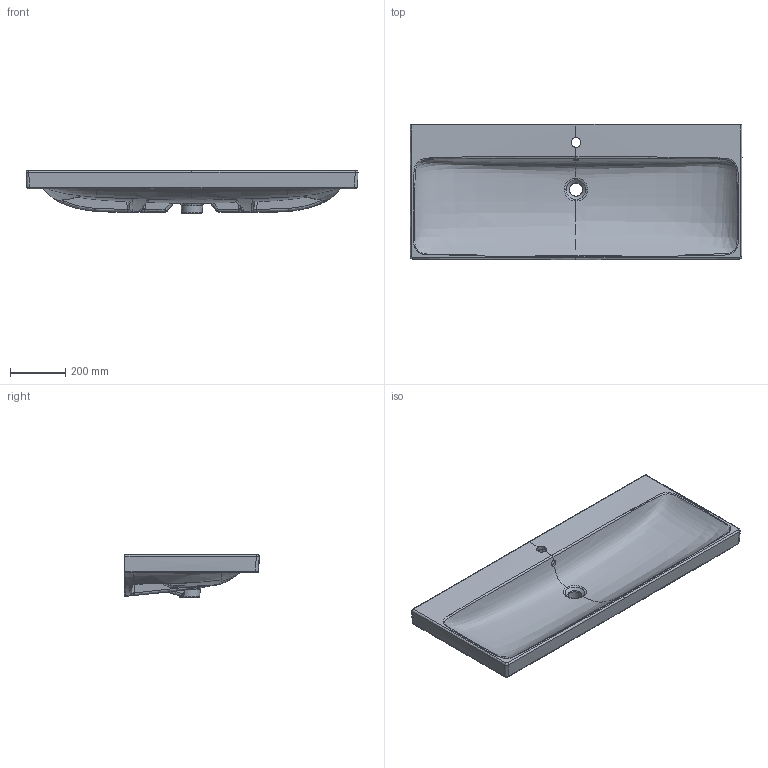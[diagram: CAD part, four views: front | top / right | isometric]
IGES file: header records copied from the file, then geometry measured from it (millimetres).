
Global section: file name: 510.011.00.2; native system: Autodesk Inventor 2023; preprocessor: unknown; author: JANAN; date: 20250107.144857; units: millimetre
Bounding box: 1198.17 x 487.7 x 155.99 mm (x, y, z)
Volume: 20012400.8 mm3; surface area: 1787642.1 mm2
Topology: 1 solids, 1 shells, 422 faces, 1081 edges, 650 vertices
Faces by surface type: bspline 422
